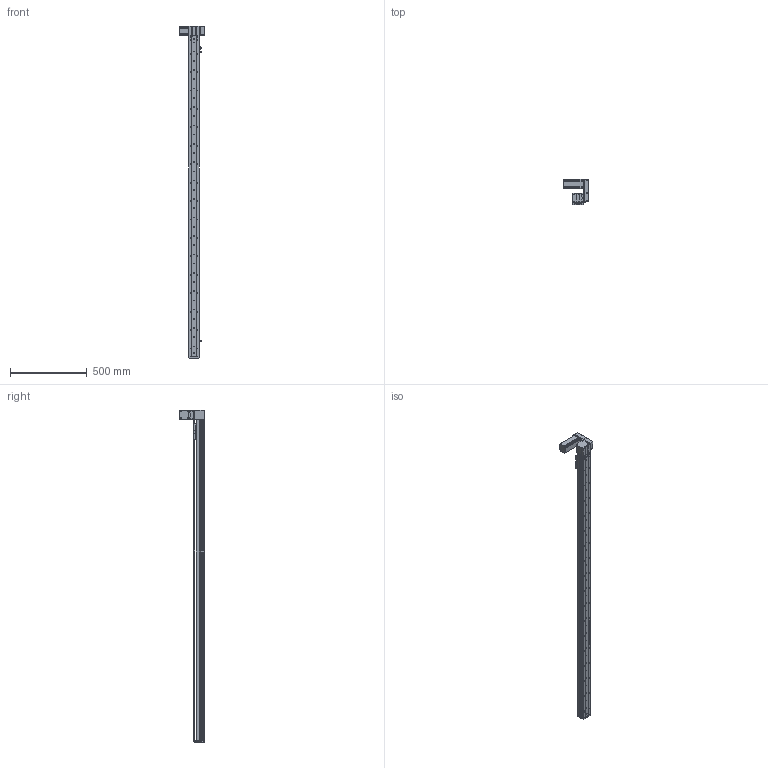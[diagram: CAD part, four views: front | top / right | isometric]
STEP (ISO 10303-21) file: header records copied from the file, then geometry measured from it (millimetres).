
FILE_DESCRIPTION (( 'STEP AP214' ), '1' );
FILE_NAME ('KSD68BS-S1900-MLU-CM.STEP', '2019-10-19T09:34:58', ( '微软用户' ), ( '微软中国' ), 'SwSTEP 2.0', 'SolidWorks 2014', '' );
FILE_SCHEMA (( 'AUTOMOTIVE_DESIGN' ));
Length unit declared in the file: millimetre
Products named in the file (11): 68单导轨同步带半封闭端板; KSD68BS 1900俴最裔啣圉猾敕; 覜茼え68遵圉猾敕; KSD68BS半封闭同步带传动导轨座; U倰嫖萇EEㄜSX672; 台达ECMA－C20604AS伺服电机（400W); KSD68BS 1900俴最菁啣圉猾敕; KSD68BS-S1900-MLU-CM; 悵誘欶奻狟殏; 68宽马达安装板连板上折同步带; 68宽单导轨半封闭同步带主动轮座左
Assembly tree (12 placements, depth 2):
  KSD68BS-S1900-MLU-CM
    KSD68BS 1900俴最菁啣圉猾敕
    台达ECMA－C20604AS伺服电机（400W)
    U倰嫖萇EEㄜSX672  x3
    KSD68BS半封闭同步带传动导轨座
    覜茼え68遵圉猾敕
    KSD68BS 1900俴最裔啣圉猾敕
    68单导轨同步带半封闭端板
    68宽单导轨半封闭同步带主动轮座左
    68宽马达安装板连板上折同步带
    悵誘欶奻狟殏
Bounding box: 167.2 x 159.5 x 2162 mm (x, y, z)
Volume: 3505882.8 mm3; surface area: 1322138.5 mm2
Topology: 13 solids, 13 shells, 1676 faces, 4940 edges, 3222 vertices
Faces by surface type: cylinder 898, plane 695, cone 83
Entity records: 66598 total; most frequent: CARTESIAN_POINT 13630, ORIENTED_EDGE 8632, DIRECTION 8290, EDGE_CURVE 4316, AXIS2_PLACEMENT_3D 2994, VERTEX_POINT 2846, LINE 2302, VECTOR 2302
